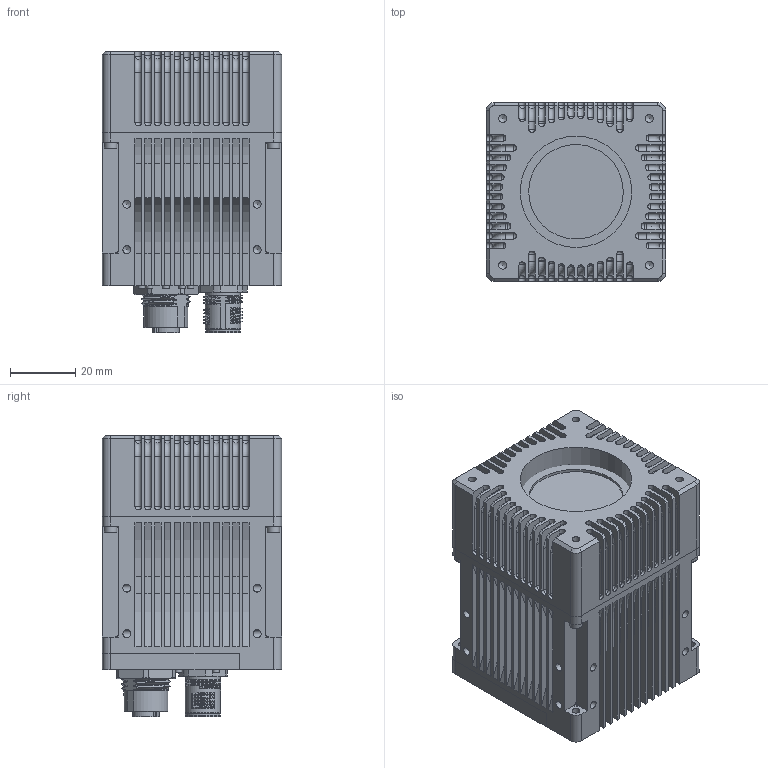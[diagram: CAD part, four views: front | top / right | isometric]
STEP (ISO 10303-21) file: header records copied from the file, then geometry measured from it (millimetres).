
FILE_DESCRIPTION(/* description */ ('C6-4090_3070-SX-GigE'),/* implementation_level */ '2;1');
FILE_NAME(/* name */ 'C:\Vault\Designs\02_3D\Kameras\C6\Public\C6-4090_3070-SX-GigE_R1.stp',/* time_stamp */ '2023-09-28T12:02:57+02:00',/* author */ ('Sergej.Hartung'),/* organization */ ('Automarion Technology GmbH'),/* preprocessor_version */ 'ST-DEVELOPER v18.1',/* originating_system */ 'Autodesk Inventor 2022',/* authorisation */ '');
FILE_SCHEMA (('AUTOMOTIVE_DESIGN { 1 0 10303 214 3 1 1 }'));
Products named in the file (16): C6-4090_3070-SX-GigE; 102903401-009_a_Public; 602344727; 102903401-002_Public; DIN 912 - M2 x 6; SACC-DSI-MS-17CON-M12 SCO SH_1437119-02; SACC-DSI-MS-17CON-M12 SCO SH_1437119_Stecker; SACC-DSI-MS-17CON-M12 SCO SH_1437119_Mutter; SACC-DSI-MS-17CON-M12 SCO SH_1437119_Pins; SACC-DSI-MS-17CON-M12 SCO SH_1437119_Kunststoffeinsatz; SACC-DSI-FS-8CON-L180_SCO SH_1553860-02; SACC-DSI-FS-8CON-L180_SCO SH_1553860_Stecker; SACC-DSI-FS-8CON-L180_SCO SH_1553860_Mutter; SACC-DSI-FS-8CON-L180_SCO SH_1553860_Kunststoffeinsatz; Bandpassfilter-M35x0,75 TFL Mount; 1292.6001
Assembly tree (26 placements, depth 3):
  C6-4090_3070-SX-GigE
    102903401-009_a_Public
    602344727
    102903401-002_Public
    DIN 912 - M2 x 6  x8
    SACC-DSI-MS-17CON-M12 SCO SH_1437119-02
      SACC-DSI-MS-17CON-M12 SCO SH_1437119_Stecker
      SACC-DSI-MS-17CON-M12 SCO SH_1437119_Mutter
      SACC-DSI-MS-17CON-M12 SCO SH_1437119_Pins
      SACC-DSI-MS-17CON-M12 SCO SH_1437119_Kunststoffeinsatz
    SACC-DSI-FS-8CON-L180_SCO SH_1553860-02
      SACC-DSI-FS-8CON-L180_SCO SH_1553860_Stecker
      SACC-DSI-FS-8CON-L180_SCO SH_1553860_Mutter
      SACC-DSI-FS-8CON-L180_SCO SH_1553860_Kunststoffeinsatz
    Bandpassfilter-M35x0,75 TFL Mount
    1292.6001  x5
Bounding box: 55 x 55 x 86.55 mm (x, y, z)
Volume: 134688.8 mm3; surface area: 68017 mm2
Topology: 44 solids, 50 shells, 2185 faces, 5495 edges, 3537 vertices
Faces by surface type: plane 998, cylinder 674, bspline 179, sphere 130, torus 104, cone 100
Full cylindrical faces by diameter (mm): 0.217 x1, 0.6 x25, 0.63 x34, 0.9 x8, 1 x10, 1.1 x17, 1.2 x17, 1.5 x5, 1.567 x16, 1.6 x5, 2 x21, 2.2 x4, 2.459 x22, 3.8 x8, 4 x4, 7.7 x1, 8.25 x2, 8.3 x1, 8.7 x1, 10.5 x1, 10.7 x3, 10.917 x2, 12 x1, 12.2 x1, 12.9 x2, 13.9 x1, 14 x1, 14.5 x1, 18 x1, 29 x2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
Entity records: 98029 total; most frequent: CARTESIAN_POINT 47223, ORIENTED_EDGE 10250, DIRECTION 10140, EDGE_CURVE 5125, AXIS2_PLACEMENT_3D 3617, VERTEX_POINT 3349, LINE 2906, VECTOR 2906
